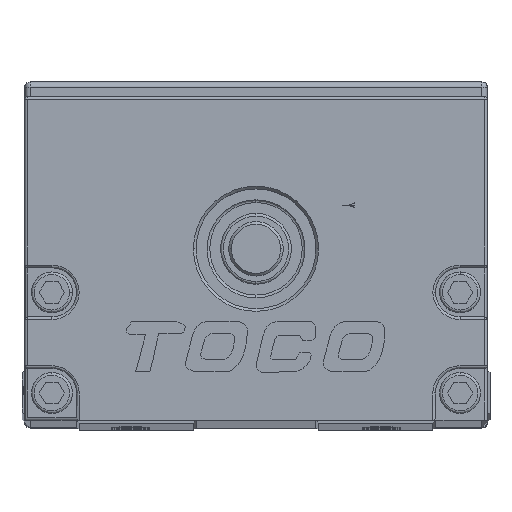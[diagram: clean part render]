
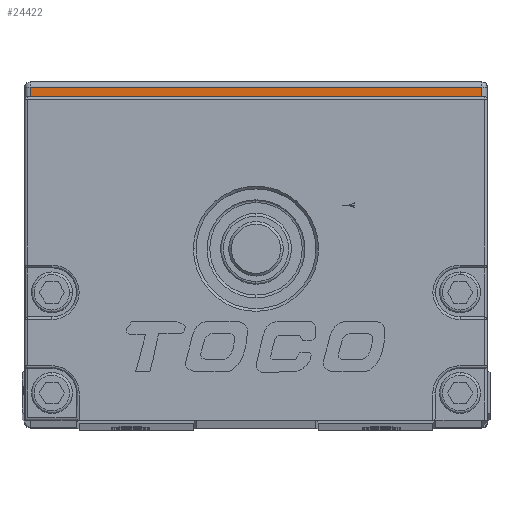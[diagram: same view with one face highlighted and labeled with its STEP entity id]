
A CAD part, top view. The second image highlights one B-rep face of the part: STEP entity #24422.
In plain terms, the highlighted planar face has unit normal (0, 0, 1).
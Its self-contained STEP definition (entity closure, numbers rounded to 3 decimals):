
#243 = LINE ( 'NONE', #5237, #32630 ) ;
#3908 = EDGE_CURVE ( 'NONE', #32026, #42742, #40809, .T. ) ;
#4661 = CARTESIAN_POINT ( 'NONE',  ( 41.5, 60., -13. ) ) ;
#5237 = CARTESIAN_POINT ( 'NONE',  ( -41.5, 64., -13. ) ) ;
#11062 = FACE_OUTER_BOUND ( 'NONE', #27778, .T. ) ;
#13881 = DIRECTION ( 'NONE',  ( 1., 0., 0. ) ) ;
#15626 = DIRECTION ( 'NONE',  ( 1., 0., 0. ) ) ;
#18690 = CARTESIAN_POINT ( 'NONE',  ( -41.5, 60., -13. ) ) ;
#20455 = CARTESIAN_POINT ( 'NONE',  ( 41.5, 63., -13. ) ) ;
#24199 = VECTOR ( 'NONE', #15626, 1000. ) ;
#24370 = DIRECTION ( 'NONE',  ( 0., -1., 0. ) ) ;
#24422 = ADVANCED_FACE ( 'NONE', ( #11062 ), #36609, .F. ) ;
#24954 = LINE ( 'NONE', #34013, #24199 ) ;
#25295 = VERTEX_POINT ( 'NONE', #26808 ) ;
#26808 = CARTESIAN_POINT ( 'NONE',  ( -41.5, 63., -13. ) ) ;
#26914 = CARTESIAN_POINT ( 'NONE',  ( -43., 64., -13. ) ) ;
#27778 = EDGE_LOOP ( 'NONE', ( #50415, #51167, #61299, #34264 ) ) ;
#28959 = DIRECTION ( 'NONE',  ( 0., 1., 0. ) ) ;
#31058 = EDGE_CURVE ( 'NONE', #50356, #42742, #37810, .T. ) ;
#32026 = VERTEX_POINT ( 'NONE', #18690 ) ;
#32630 = VECTOR ( 'NONE', #28959, 1000. ) ;
#34013 = CARTESIAN_POINT ( 'NONE',  ( -43., 63., -13. ) ) ;
#34264 = ORIENTED_EDGE ( 'NONE', *, *, #31058, .F. ) ;
#36609 = PLANE ( 'NONE',  #55879 ) ;
#37810 = LINE ( 'NONE', #53381, #41836 ) ;
#40809 = LINE ( 'NONE', #50499, #53368 ) ;
#41293 = DIRECTION ( 'NONE',  ( 0., 0., -1. ) ) ;
#41836 = VECTOR ( 'NONE', #24370, 1000. ) ;
#42742 = VERTEX_POINT ( 'NONE', #4661 ) ;
#46564 = EDGE_CURVE ( 'NONE', #32026, #25295, #243, .T. ) ;
#50356 = VERTEX_POINT ( 'NONE', #20455 ) ;
#50415 = ORIENTED_EDGE ( 'NONE', *, *, #57103, .F. ) ;
#50499 = CARTESIAN_POINT ( 'NONE',  ( -43., 60., -13. ) ) ;
#51167 = ORIENTED_EDGE ( 'NONE', *, *, #46564, .F. ) ;
#53368 = VECTOR ( 'NONE', #13881, 1000. ) ;
#53381 = CARTESIAN_POINT ( 'NONE',  ( 41.5, 64., -13. ) ) ;
#55879 = AXIS2_PLACEMENT_3D ( 'NONE', #26914, #41293, #59448 ) ;
#57103 = EDGE_CURVE ( 'NONE', #25295, #50356, #24954, .T. ) ;
#59448 = DIRECTION ( 'NONE',  ( 0., -1., 0. ) ) ;
#61299 = ORIENTED_EDGE ( 'NONE', *, *, #3908, .T. ) ;
